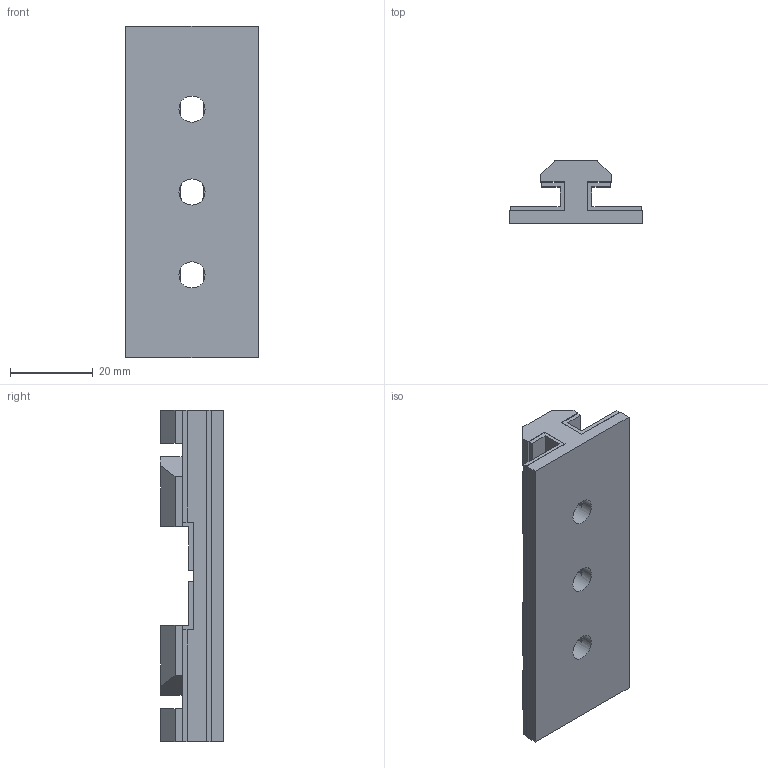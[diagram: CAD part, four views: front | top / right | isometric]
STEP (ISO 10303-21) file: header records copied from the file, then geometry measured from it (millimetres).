
FILE_DESCRIPTION(/* description */ ('www.motedis.com/part/1142','CAx-IF Rec.Pracs.---Representation and Presentation of Product Manufacturing Information (PMI)---4.0---2014-10-13'),/* implementation_level */ '2;1');
FILE_NAME(/* name */ 'Motedis_1142.stp',/* time_stamp */ '2026-10-19T11:25:51+02:00',/* author */ ('Motedis'),/* organization */ ('Motedis GmbH'),/* preprocessor_version */ 'ST-DEVELOPER v20.1',/* originating_system */ 'Autodesk Inventor 2026',/* authorisation */ 'Motedis GmbH');
FILE_SCHEMA (('AP242_MANAGED_MODEL_BASED_3D_ENGINEERING_MIM_LF { 1 0 10303 442 2 1 4 }'));
Length unit declared in the file: millimetre
Products named in the file (3): Motedis_1142; Motedis_1142_1; Plastic
Assembly tree (3 placements, depth 2):
  Motedis_1142
    Motedis_1142_1
    Plastic  x2
Bounding box: 32 x 15.2 x 80 mm (x, y, z)
Volume: 15983.2 mm3; surface area: 16455.3 mm2
Topology: 3 solids, 3 shells, 108 faces, 319 edges, 210 vertices
Faces by surface type: plane 105, cylinder 3
Full cylindrical faces by diameter (mm): 6.3 x3
Entity records: 3700 total; most frequent: CARTESIAN_POINT 688, DIRECTION 569, ORIENTED_EDGE 554, EDGE_CURVE 277, LINE 255, VECTOR 255, VERTEX_POINT 182, AXIS2_PLACEMENT_3D 157
